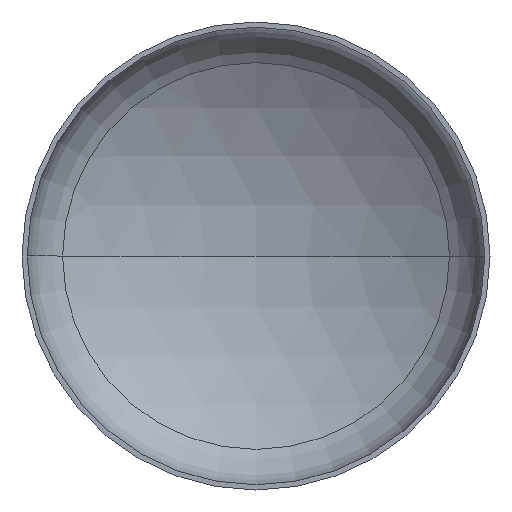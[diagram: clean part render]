
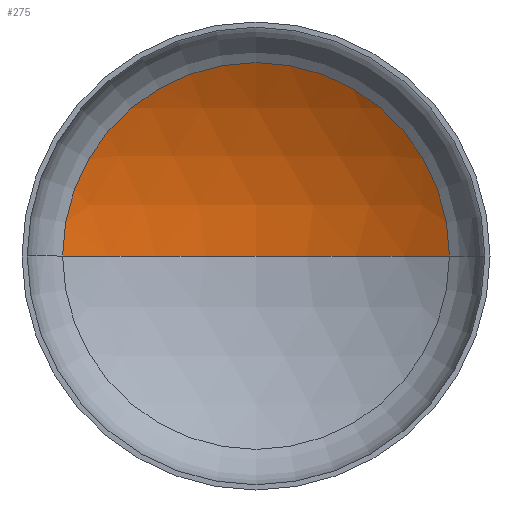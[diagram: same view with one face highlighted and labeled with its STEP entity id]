
A CAD part, front view. The second image highlights one B-rep face of the part: STEP entity #275.
In plain terms, the highlighted spherical face has radius 640 mm.
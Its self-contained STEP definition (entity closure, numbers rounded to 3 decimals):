
#2 = AXIS2_PLACEMENT_3D ( 'NONE', #268, #380, #291 ) ;
#6 = AXIS2_PLACEMENT_3D ( 'NONE', #224, #140, #184 ) ;
#24 = EDGE_LOOP ( 'NONE', ( #274, #123, #66 ) ) ;
#26 = AXIS2_PLACEMENT_3D ( 'NONE', #188, #256, #57 ) ;
#39 = AXIS2_PLACEMENT_3D ( 'NONE', #41, #384, #337 ) ;
#41 = CARTESIAN_POINT ( 'NONE',  ( 0., 137.036, 0. ) ) ;
#57 = DIRECTION ( 'NONE',  ( -1., 0., 0. ) ) ;
#66 = ORIENTED_EDGE ( 'NONE', *, *, #138, .T. ) ;
#109 = VERTEX_POINT ( 'NONE', #238 ) ;
#123 = ORIENTED_EDGE ( 'NONE', *, *, #350, .T. ) ;
#125 = VERTEX_POINT ( 'NONE', #220 ) ;
#128 = VERTEX_POINT ( 'NONE', #210 ) ;
#138 = EDGE_CURVE ( 'NONE', #109, #125, #368, .T. ) ;
#140 = DIRECTION ( 'NONE',  ( 0., 0., -1. ) ) ;
#184 = DIRECTION ( 'NONE',  ( -1., 0., 0. ) ) ;
#188 = CARTESIAN_POINT ( 'NONE',  ( 0., -410.986, 0. ) ) ;
#210 = CARTESIAN_POINT ( 'NONE',  ( 0., 229.014, 0. ) ) ;
#220 = CARTESIAN_POINT ( 'NONE',  ( -330.563, 137.036, 0. ) ) ;
#224 = CARTESIAN_POINT ( 'NONE',  ( 0., -410.986, 0. ) ) ;
#238 = CARTESIAN_POINT ( 'NONE',  ( 330.563, 137.036, 0. ) ) ;
#256 = DIRECTION ( 'NONE',  ( 0., 0., -1. ) ) ;
#268 = CARTESIAN_POINT ( 'NONE',  ( 0., -410.986, 0. ) ) ;
#274 = ORIENTED_EDGE ( 'NONE', *, *, #353, .F. ) ;
#275 = ADVANCED_FACE ( 'NONE', ( #356 ), #293, .F. ) ;
#291 = DIRECTION ( 'NONE',  ( 1., 0., 0. ) ) ;
#293 = SPHERICAL_SURFACE ( 'NONE', #26, 640. ) ;
#329 = CIRCLE ( 'NONE', #2, 640. ) ;
#337 = DIRECTION ( 'NONE',  ( 1., 0., 0. ) ) ;
#350 = EDGE_CURVE ( 'NONE', #128, #109, #351, .T. ) ;
#351 = CIRCLE ( 'NONE', #6, 640. ) ;
#353 = EDGE_CURVE ( 'NONE', #128, #125, #329, .T. ) ;
#356 = FACE_OUTER_BOUND ( 'NONE', #24, .T. ) ;
#368 = CIRCLE ( 'NONE', #39, 330.563 ) ;
#380 = DIRECTION ( 'NONE',  ( 0., 0., 1. ) ) ;
#384 = DIRECTION ( 'NONE',  ( 0., -1., 0. ) ) ;
